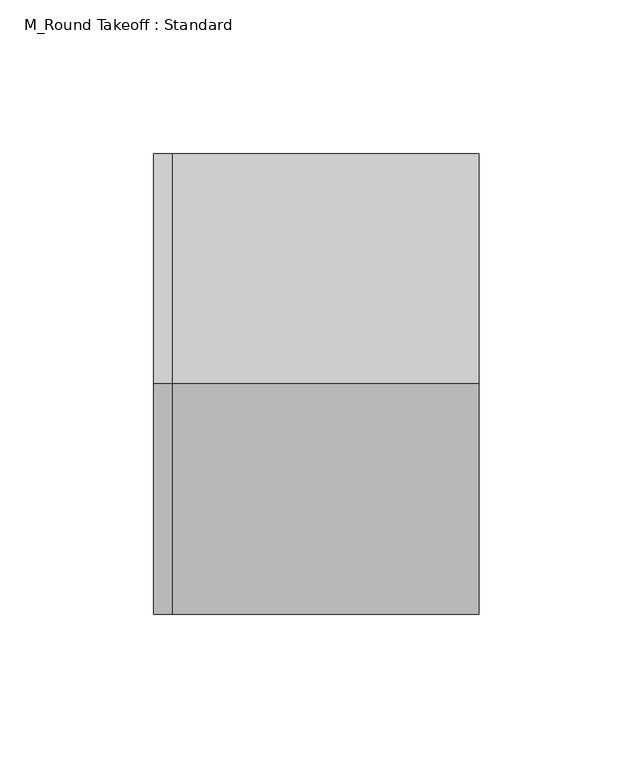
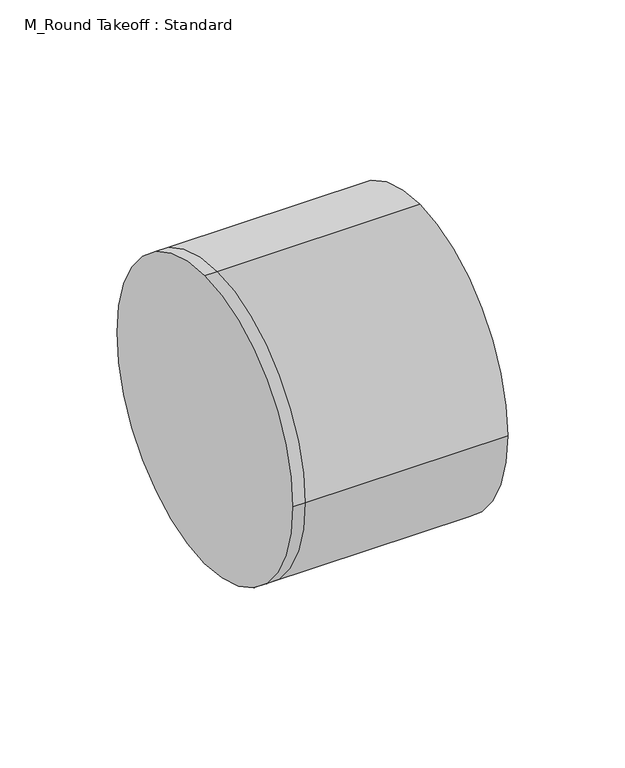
"""IFC4 building model written with IfcOpenShell, lengths in millimetres: duct fitting geometry, M_Round Takeoff : Standard."""

import ifcopenshell
import ifcopenshell.guid

model = None  # the IFC model being written
_history = None  # IfcOwnerHistory: only IFC2X3 demands one
_inside = {}  # id of a spatial element -> (the spatial element, [elements in it])
_under = {}  # id of a project, library or spatial element -> (it, [spatial elements below it])
_declared = {}  # id of a project -> (the project, [libraries it declares])
_typed = {}  # id of a type object -> (the type object, [elements of that type])
_made_of = {}  # id of a material, layer set ... -> (it, [elements and type objects made of it])


def new_model(schema):
    """Start an empty IFC model of exactly this schema.

    Asked for "IFC4X3", IfcOpenShell would pick the latest addendum, in which some entities
    have other attributes; the version numbers below select the first issue.
    IFC2X3 requires an IfcOwnerHistory on every rooted entity: one is made here for all.
    """
    global model, _history
    if schema == "IFC4X3":
        model = ifcopenshell.file(schema_version=(4, 3, 0, 0))
    else:
        model = ifcopenshell.file(schema=schema)
    _inside.clear()
    _under.clear()
    _declared.clear()
    _typed.clear()
    _made_of.clear()
    _history = None
    if model.schema == "IFC2X3":
        org = make("IfcOrganization", Name="unknown")
        user = make(
            "IfcPersonAndOrganization",
            ThePerson=make("IfcPerson", FamilyName="unknown"),
            TheOrganization=org,
        )
        app = make(
            "IfcApplication",
            ApplicationDeveloper=org,
            Version="unknown",
            ApplicationFullName="unknown",
            ApplicationIdentifier="unknown",
        )
        _history = make(
            "IfcOwnerHistory",
            OwningUser=user,
            OwningApplication=app,
            ChangeAction="ADDED",
            CreationDate=0,
        )
    return model


def make(cls, **values):
    """One entity of the class cls with the attributes given. An attribute that is None is left unset."""
    return model.create_entity(
        cls, **{name: value for name, value in values.items() if value is not None}
    )


def rooted(cls, **values):
    """An entity with a GlobalId (a new one), such as an element, a storey or a relation."""
    return make(cls, GlobalId=ifcopenshell.guid.new(), OwnerHistory=_history, **values)


def si_unit(unit_type, name, prefix=None):
    """IfcSIUnit, for example si_unit("LENGTHUNIT", "METRE", prefix="MILLI")."""
    return make("IfcSIUnit", UnitType=unit_type, Prefix=prefix, Name=name)


def assignment(units):
    """IfcUnitAssignment: the units of a project."""
    return None if units is None else make("IfcUnitAssignment", Units=units)


def point(xyz):
    """IfcCartesianPoint."""
    return None if xyz is None else make("IfcCartesianPoint", Coordinates=xyz)


def direction(xyz):
    """IfcDirection."""
    return None if xyz is None else make("IfcDirection", DirectionRatios=xyz)


def frame(location, z_axis=None, x_axis=None):
    """IfcAxis2Placement3D, a coordinate frame: its origin and axes. An axis left out is left unset."""
    return make(
        "IfcAxis2Placement3D",
        Location=point(location),
        Axis=direction(z_axis),
        RefDirection=direction(x_axis),
    )


def origin():
    """The frame at (0, 0, 0) with its axes left unset."""
    return frame((0.0, 0.0, 0.0))


def place(relative_to, where):
    """IfcLocalPlacement: puts the frame where relative to a parent placement (None: the world)."""
    return make(
        "IfcLocalPlacement", PlacementRelTo=relative_to, RelativePlacement=where
    )


def context(
    kind, dimensions, precision=None, world=None, true_north=None, identifier=None
):
    """IfcGeometricRepresentationContext, for example the 3D "Model" context."""
    return make(
        "IfcGeometricRepresentationContext",
        ContextIdentifier=identifier,
        ContextType=kind,
        CoordinateSpaceDimension=dimensions,
        Precision=precision,
        WorldCoordinateSystem=world,
        TrueNorth=true_north,
    )


def project(units=None, contexts=None):
    """IfcProject with its units and contexts."""
    return rooted(
        "IfcProject",
        Name="project",
        RepresentationContexts=contexts,
        UnitsInContext=assignment(units),
    )


def spatial(cls, under=None, at=None, **own):
    """A site, building, storey or space (cls), placed at a placement, below another one or the project."""
    s = rooted(cls, ObjectPlacement=at, **own)
    if under is not None:
        _under.setdefault(under.id(), (under, []))[1].append(s)
    return s


def circle_curve(where, radius):
    """IfcCircle in the frame where."""
    return make("IfcCircle", Position=where, Radius=radius)


def shape(context_of_items, identifier, shape_type, items):
    """IfcShapeRepresentation: the items that make up one representation, for example the "Body"."""
    return make(
        "IfcShapeRepresentation",
        ContextOfItems=context_of_items,
        RepresentationIdentifier=identifier,
        RepresentationType=shape_type,
        Items=items,
    )


def source(mapping_origin, context_of_items, identifier, shape_type, items):
    """IfcRepresentationMap: a shape defined once, which mapped items show again and again."""
    return make(
        "IfcRepresentationMap",
        MappingOrigin=mapping_origin,
        MappedRepresentation=shape(context_of_items, identifier, shape_type, items),
    )


def transform(
    local_origin,
    x_axis=None,
    y_axis=None,
    z_axis=None,
    scale=None,
    scale2=None,
    scale3=None,
    uniform=True,
):
    """IfcCartesianTransformationOperator3D, or its non-uniform kind. x_axis, y_axis, z_axis: its Axis1, 2, 3."""
    if uniform:
        return make(
            "IfcCartesianTransformationOperator3D",
            Axis1=direction(x_axis),
            Axis2=direction(y_axis),
            LocalOrigin=point(local_origin),
            Scale=scale,
            Axis3=direction(z_axis),
        )
    return make(
        "IfcCartesianTransformationOperator3DnonUniform",
        Axis1=direction(x_axis),
        Axis2=direction(y_axis),
        LocalOrigin=point(local_origin),
        Scale=scale,
        Axis3=direction(z_axis),
        Scale2=scale2,
        Scale3=scale3,
    )


def mapped(mapping_source, mapping_target):
    """IfcMappedItem: shows the shape of a source again, moved by a transform."""
    return make(
        "IfcMappedItem", MappingSource=mapping_source, MappingTarget=mapping_target
    )


def made_of(thing, what):
    """Note that an element or type object is made of a material, layer set ...; save() writes the relation."""
    if what is not None:
        _made_of.setdefault(what.id(), (what, []))[1].append(thing)
    return thing


def element(
    cls,
    number,
    at=None,
    inside=None,
    cuts=None,
    type_object=None,
    material=None,
    context=None,
    identifier="Body",
    shape_type=None,
    held_by="IfcProductDefinitionShape",
    body=None,
    shapes=None,
    **own,
):
    """One element of the class cls, such as IfcWall. Its Tag is "e" and its number.

    at: its placement. inside: the storey or other place that contains it. cuts: it is an
    opening in that element (IfcRelVoidsElement). A single representation is given by context,
    identifier, shape_type and body (its items); several are given by shapes. held_by: the class
    of the entity that holds the representations. save() writes the other relations.
    """
    e = rooted(cls, Tag="e%d" % number, ObjectPlacement=at, **own)
    if body is not None:
        shapes = [shape(context, identifier, shape_type, body)]
    if shapes is not None:
        e.Representation = make(held_by, Representations=shapes)
    if inside is not None:
        _inside.setdefault(inside.id(), (inside, []))[1].append(e)
    if cuts is not None:
        rooted(
            "IfcRelVoidsElement", RelatingBuildingElement=cuts, RelatedOpeningElement=e
        )
    if type_object is not None:
        _typed.setdefault(type_object.id(), (type_object, []))[1].append(e)
    return made_of(e, material)


def aggregate(whole, parts):
    """IfcRelAggregates: a whole, such as a stair, and the parts it consists of."""
    return rooted("IfcRelAggregates", RelatingObject=whole, RelatedObjects=parts)


def save(model, path):
    """Write the relations noted so far, then the file.

    IfcRelAggregates (storeys below a building ...), IfcRelContainedInSpatialStructure (elements
    in a storey), IfcRelDefinesByType, IfcRelAssociatesMaterial and IfcRelDeclares: one each for
    every whole, place, type object, material and project.
    """
    for whole, parts in _under.values():
        aggregate(whole, parts)
    for where, things in _inside.values():
        rooted(
            "IfcRelContainedInSpatialStructure",
            RelatedElements=things,
            RelatingStructure=where,
        )
    for kind, things in _typed.values():
        rooted("IfcRelDefinesByType", RelatedObjects=things, RelatingType=kind)
    for what, things in _made_of.values():
        rooted("IfcRelAssociatesMaterial", RelatedObjects=things, RelatingMaterial=what)
    for by, libraries in _declared.values():
        rooted("IfcRelDeclares", RelatingContext=by, RelatedDefinitions=libraries)
    model.write(path)


def plane_surface(at):
    """IfcPlane: the flat surface through the origin of the frame at, square to its z axis."""
    return make("IfcPlane", Position=at)


def cylinder_surface(at, radius):
    """IfcCylindricalSurface: all points at the distance radius from the z axis of the frame at."""
    return make("IfcCylindricalSurface", Position=at, Radius=radius)


def advanced_brep(points, edges, surfaces, faces):
    """IfcAdvancedBrep: a solid bounded by faces that lie on surfaces and meet in shared edges.

    An edge is (start, end): straight between two places in points (the first is 0);
    or (start, end, curve); or (start, end, curve, False) where it runs against its curve.
    A face is (place in surfaces, loops), or (place, loops, False) where it looks against
    its surface's normal. A loop lists edges by number (the first is 1), with a minus sign
    where the edge is run from its end to its start. The first loop is the outer one.
    """
    corners = [point(p) for p in points]
    vertices = [make("IfcVertexPoint", VertexGeometry=c) for c in corners]
    made = []
    for start, end, *more in edges:
        made.append(
            make(
                "IfcEdgeCurve",
                EdgeStart=vertices[start],
                EdgeEnd=vertices[end],
                EdgeGeometry=more[0] if more else make("IfcPolyline", Points=[corners[start], corners[end]]),
                SameSense=more[1] if len(more) > 1 else True,
            )
        )
    hull = []
    for where, loops, *sense in faces:
        bounds = []
        for j, loop in enumerate(loops):
            ring = [make("IfcOrientedEdge", EdgeElement=made[abs(k) - 1], Orientation=k > 0) for k in loop]
            bounds.append(
                make(
                    "IfcFaceOuterBound" if j == 0 else "IfcFaceBound",
                    Bound=make("IfcEdgeLoop", EdgeList=ring),
                    Orientation=True,
                )
            )
        hull.append(make("IfcAdvancedFace", Bounds=bounds, FaceSurface=surfaces[where], SameSense=sense[0] if sense else True))
    return make("IfcAdvancedBrep", Outer=make("IfcClosedShell", CfsFaces=hull))


def m_round_takeoff_standard_f2a1d319(model_context):
    return source(origin(), model_context, "Body", "AdvancedBrep", [
        advanced_brep(
        [(-6.0968225, 0.0, 75.0), (-6.0968225, 75.0, 0.0), (-6.0968225, 0.0, -75.0), (-6.0968225, -75.0, 0.0), (0.0, -75.0, 0.0), (0.0, 0.0, 75.0), (0.0, 0.0, -75.0), (0.0, 75.0, 0.0), (100.0008225, 0.0, 75.0), (100.0008225, -75.0, 0.0), (100.0008225, 0.0, -75.0), (100.0008225, 75.0, 0.0)],
        [
            (0, 1, circle_curve(frame((-6.0968225, 0.0, 0.0), z_axis=(-1.0, 0.0, 0.0), x_axis=(0.0, -1.0, 0.0)), 75.0)),
            (1, 2, circle_curve(frame((-6.0968225, 0.0, 0.0), z_axis=(-1.0, 0.0, 0.0), x_axis=(0.0, -1.0, 0.0)), 75.0)),
            (2, 3, circle_curve(frame((-6.0968225, 0.0, 0.0), z_axis=(-1.0, 0.0, 0.0), x_axis=(0.0, -1.0, 0.0)), 75.0)),
            (3, 0, circle_curve(frame((-6.0968225, 0.0, 0.0), z_axis=(-1.0, 0.0, 0.0), x_axis=(0.0, -1.0, 0.0)), 75.0)),
            (3, 4),
            (4, 5, circle_curve(frame((0.0, 0.0, 0.0), z_axis=(-1.0, 0.0, 0.0), x_axis=(0.0, -1.0, 0.0)), 75.0)),
            (5, 0),
            (2, 6),
            (6, 4, circle_curve(frame((0.0, 0.0, 0.0), z_axis=(-1.0, 0.0, 0.0), x_axis=(0.0, -1.0, 0.0)), 75.0)),
            (1, 7),
            (7, 6, circle_curve(frame((0.0, 0.0, 0.0), z_axis=(-1.0, 0.0, 0.0), x_axis=(0.0, -1.0, 0.0)), 75.0)),
            (5, 7, circle_curve(frame((0.0, 0.0, 0.0), z_axis=(-1.0, 0.0, 0.0), x_axis=(0.0, -1.0, 0.0)), 75.0)),
            (8, 9, circle_curve(frame((100.0008225, 0.0, 0.0), z_axis=(1.0, 0.0, 0.0), x_axis=(0.0, -1.0, 0.0)), 75.0)),
            (9, 10, circle_curve(frame((100.0008225, 0.0, 0.0), z_axis=(1.0, 0.0, 0.0), x_axis=(0.0, -1.0, 0.0)), 75.0)),
            (10, 11, circle_curve(frame((100.0008225, 0.0, 0.0), z_axis=(1.0, 0.0, 0.0), x_axis=(0.0, -1.0, 0.0)), 75.0)),
            (11, 8, circle_curve(frame((100.0008225, 0.0, 0.0), z_axis=(1.0, 0.0, 0.0), x_axis=(0.0, -1.0, 0.0)), 75.0)),
            (8, 5),
            (4, 9),
            (6, 10),
            (7, 11),
        ],
        [
            plane_surface(frame((-6.0968225, 0.0, 0.0), z_axis=(-1.0, 0.0, 0.0), x_axis=(0.0, 0.0, 1.0))),
            cylinder_surface(frame((-6.0968225, 0.0, 0.0), z_axis=(-1.0, 0.0, 0.0), x_axis=(0.0, -1.0, 0.0)), 75.0),
            plane_surface(frame((100.0008225, 0.0, 0.0), z_axis=(1.0, 0.0, 0.0), x_axis=(0.0, 0.0, 1.0))),
            cylinder_surface(frame((0.0, 0.0, 0.0), z_axis=(-1.0, 0.0, 0.0), x_axis=(0.0, -1.0, 0.0)), 75.0),
        ],
        [
            (0, [[1, 2, 3, 4]]),
            (1, [[5, 6, 7, -4]]),
            (1, [[8, 9, -5, -3]]),
            (1, [[10, 11, -8, -2]]),
            (1, [[-7, 12, -10, -1]]),
            (2, [[13, 14, 15, 16]]),
            (3, [[17, -6, 18, -13]]),
            (3, [[-18, -9, 19, -14]]),
            (3, [[-19, -11, 20, -15]]),
            (3, [[-20, -12, -17, -16]]),
        ],
    ),
        advanced_brep(
        [(100.0008225, 0.0, 75.0), (100.0008225, -75.0, 0.0), (100.0008225, 0.0, -75.0), (100.0008225, 75.0, 0.0), (0.0, 0.0, 75.0), (0.0, -75.0, 0.0), (0.0, 0.0, -75.0), (0.0, 75.0, 0.0), (-6.0968225, 0.0, 75.0), (-6.0968225, 75.0, 0.0), (-6.0968225, 0.0, -75.0), (-6.0968225, -75.0, 0.0)],
        [
            (0, 1, circle_curve(frame((100.0008225, 0.0, 0.0), z_axis=(1.0, 0.0, 0.0), x_axis=(0.0, -1.0, 0.0)), 75.0)),
            (1, 2, circle_curve(frame((100.0008225, 0.0, 0.0), z_axis=(1.0, 0.0, 0.0), x_axis=(0.0, -1.0, 0.0)), 75.0)),
            (2, 3, circle_curve(frame((100.0008225, 0.0, 0.0), z_axis=(1.0, 0.0, 0.0), x_axis=(0.0, -1.0, 0.0)), 75.0)),
            (3, 0, circle_curve(frame((100.0008225, 0.0, 0.0), z_axis=(1.0, 0.0, 0.0), x_axis=(0.0, -1.0, 0.0)), 75.0)),
            (0, 4),
            (4, 5, circle_curve(frame((0.0, 0.0, 0.0), z_axis=(1.0, 0.0, 0.0), x_axis=(0.0, -1.0, 0.0)), 75.0)),
            (5, 1),
            (5, 6, circle_curve(frame((0.0, 0.0, 0.0), z_axis=(1.0, 0.0, 0.0), x_axis=(0.0, -1.0, 0.0)), 75.0)),
            (6, 2),
            (6, 7, circle_curve(frame((0.0, 0.0, 0.0), z_axis=(1.0, 0.0, 0.0), x_axis=(0.0, -1.0, 0.0)), 75.0)),
            (7, 3),
            (7, 4, circle_curve(frame((0.0, 0.0, 0.0), z_axis=(1.0, 0.0, 0.0), x_axis=(0.0, -1.0, 0.0)), 75.0)),
            (8, 9, circle_curve(frame((-6.0968225, 0.0, 0.0), z_axis=(-1.0, 0.0, 0.0), x_axis=(0.0, -1.0, 0.0)), 75.0)),
            (9, 10, circle_curve(frame((-6.0968225, 0.0, 0.0), z_axis=(-1.0, 0.0, 0.0), x_axis=(0.0, -1.0, 0.0)), 75.0)),
            (10, 11, circle_curve(frame((-6.0968225, 0.0, 0.0), z_axis=(-1.0, 0.0, 0.0), x_axis=(0.0, -1.0, 0.0)), 75.0)),
            (11, 8, circle_curve(frame((-6.0968225, 0.0, 0.0), z_axis=(-1.0, 0.0, 0.0), x_axis=(0.0, -1.0, 0.0)), 75.0)),
            (11, 5),
            (4, 8),
            (10, 6),
            (9, 7),
        ],
        [
            plane_surface(frame((100.0008225, 0.0, 0.0), z_axis=(1.0, 0.0, 0.0), x_axis=(0.0, 0.0, 1.0))),
            cylinder_surface(frame((0.0, 0.0, 0.0), z_axis=(-1.0, 0.0, 0.0), x_axis=(0.0, -1.0, 0.0)), 75.0),
            plane_surface(frame((-6.0968225, 0.0, 0.0), z_axis=(-1.0, 0.0, 0.0), x_axis=(0.0, 0.0, 1.0))),
            cylinder_surface(frame((-6.0968225, 0.0, 0.0), z_axis=(-1.0, 0.0, 0.0), x_axis=(0.0, -1.0, 0.0)), 75.0),
        ],
        [
            (0, [[1, 2, 3, 4]]),
            (1, [[5, 6, 7, -1]]),
            (1, [[-7, 8, 9, -2]]),
            (1, [[-9, 10, 11, -3]]),
            (1, [[-11, 12, -5, -4]]),
            (2, [[13, 14, 15, 16]]),
            (3, [[17, -6, 18, -16]]),
            (3, [[19, -8, -17, -15]]),
            (3, [[20, -10, -19, -14]]),
            (3, [[-18, -12, -20, -13]]),
        ],
    ),
        advanced_brep(
        [(-6.0968225, 0.0, 75.0), (-6.0968225, 75.0, 0.0), (-6.0968225, 0.0, -75.0), (-6.0968225, -75.0, 0.0), (0.0, -75.0, 0.0), (0.0, 0.0, 75.0), (0.0, 0.0, -75.0), (0.0, 75.0, 0.0), (100.0008225, 0.0, 75.0), (100.0008225, -75.0, 0.0), (100.0008225, 0.0, -75.0), (100.0008225, 75.0, 0.0)],
        [
            (0, 1, circle_curve(frame((-6.0968225, 0.0, 0.0), z_axis=(-1.0, 0.0, 0.0), x_axis=(0.0, -1.0, 0.0)), 75.0)),
            (1, 2, circle_curve(frame((-6.0968225, 0.0, 0.0), z_axis=(-1.0, 0.0, 0.0), x_axis=(0.0, -1.0, 0.0)), 75.0)),
            (2, 3, circle_curve(frame((-6.0968225, 0.0, 0.0), z_axis=(-1.0, 0.0, 0.0), x_axis=(0.0, -1.0, 0.0)), 75.0)),
            (3, 0, circle_curve(frame((-6.0968225, 0.0, 0.0), z_axis=(-1.0, 0.0, 0.0), x_axis=(0.0, -1.0, 0.0)), 75.0)),
            (3, 4),
            (4, 5, circle_curve(frame((0.0, 0.0, 0.0), z_axis=(-1.0, 0.0, 0.0), x_axis=(0.0, -1.0, 0.0)), 75.0)),
            (5, 0),
            (2, 6),
            (6, 4, circle_curve(frame((0.0, 0.0, 0.0), z_axis=(-1.0, 0.0, 0.0), x_axis=(0.0, -1.0, 0.0)), 75.0)),
            (1, 7),
            (7, 6, circle_curve(frame((0.0, 0.0, 0.0), z_axis=(-1.0, 0.0, 0.0), x_axis=(0.0, -1.0, 0.0)), 75.0)),
            (5, 7, circle_curve(frame((0.0, 0.0, 0.0), z_axis=(-1.0, 0.0, 0.0), x_axis=(0.0, -1.0, 0.0)), 75.0)),
            (8, 9, circle_curve(frame((100.0008225, 0.0, 0.0), z_axis=(1.0, 0.0, 0.0), x_axis=(0.0, -1.0, 0.0)), 75.0)),
            (9, 10, circle_curve(frame((100.0008225, 0.0, 0.0), z_axis=(1.0, 0.0, 0.0), x_axis=(0.0, -1.0, 0.0)), 75.0)),
            (10, 11, circle_curve(frame((100.0008225, 0.0, 0.0), z_axis=(1.0, 0.0, 0.0), x_axis=(0.0, -1.0, 0.0)), 75.0)),
            (11, 8, circle_curve(frame((100.0008225, 0.0, 0.0), z_axis=(1.0, 0.0, 0.0), x_axis=(0.0, -1.0, 0.0)), 75.0)),
            (8, 5),
            (4, 9),
            (6, 10),
            (7, 11),
        ],
        [
            plane_surface(frame((-6.0968225, 0.0, 0.0), z_axis=(-1.0, 0.0, 0.0), x_axis=(0.0, 0.0, 1.0))),
            cylinder_surface(frame((-6.0968225, 0.0, 0.0), z_axis=(-1.0, 0.0, 0.0), x_axis=(0.0, -1.0, 0.0)), 75.0),
            plane_surface(frame((100.0008225, 0.0, 0.0), z_axis=(1.0, 0.0, 0.0), x_axis=(0.0, 0.0, 1.0))),
            cylinder_surface(frame((0.0, 0.0, 0.0), z_axis=(-1.0, 0.0, 0.0), x_axis=(0.0, -1.0, 0.0)), 75.0),
        ],
        [
            (0, [[1, 2, 3, 4]]),
            (1, [[5, 6, 7, -4]]),
            (1, [[8, 9, -5, -3]]),
            (1, [[10, 11, -8, -2]]),
            (1, [[-7, 12, -10, -1]]),
            (2, [[13, 14, 15, 16]]),
            (3, [[17, -6, 18, -13]]),
            (3, [[-18, -9, 19, -14]]),
            (3, [[-19, -11, 20, -15]]),
            (3, [[-20, -12, -17, -16]]),
        ],
    ),
    ])


if __name__ == "__main__":
    model = new_model("IFC4")
    model_context = context("Model", 3, world=origin())
    ifc_project = project(units=[si_unit("LENGTHUNIT", "METRE", prefix="MILLI")], contexts=[model_context])
    site = spatial("IfcSite", under=ifc_project)
    building = spatial("IfcBuilding", under=site)
    placement = place(None, origin())
    m_round_takeoff_standard_shape = m_round_takeoff_standard_f2a1d319(model_context)
    element("IfcDuctFitting", 1, ObjectType="M_Round Takeoff : Standard", at=placement, inside=building, context=model_context, shape_type="MappedRepresentation", body=[
        mapped(m_round_takeoff_standard_shape, transform((0.0, 0.0, 0.0), x_axis=(1.0, 0.0, 0.0), y_axis=(0.0, 1.0, 0.0), z_axis=(0.0, 0.0, 1.0))),
    ])
    save(model, "model.ifc")
